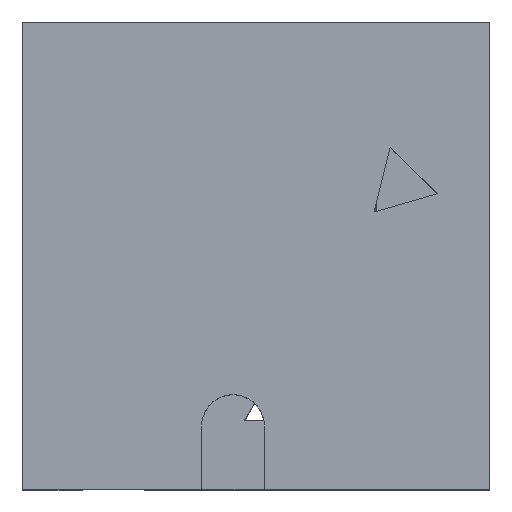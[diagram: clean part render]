
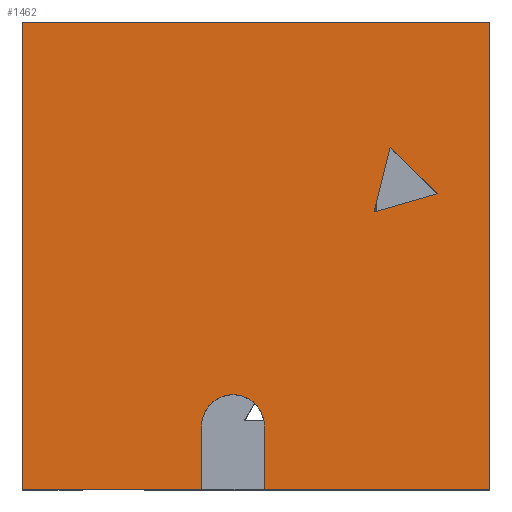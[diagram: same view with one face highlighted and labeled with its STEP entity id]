
A CAD part, top view. The second image highlights one B-rep face of the part: STEP entity #1462.
In plain terms, the highlighted planar face has unit normal (0, 0, 1).
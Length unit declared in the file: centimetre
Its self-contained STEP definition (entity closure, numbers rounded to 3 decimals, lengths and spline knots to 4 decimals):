
#4 = DIRECTION ( 'NONE',  ( 1., 0., 0. ) ) ;
#11 = DIRECTION ( 'NONE',  ( 0., 0., 1. ) ) ;
#16 = DIRECTION ( 'NONE',  ( -1., 0., 0. ) ) ;
#48 = VERTEX_POINT ( 'NONE', #796 ) ;
#51 = VECTOR ( 'NONE', #799, 100. ) ;
#52 = VECTOR ( 'NONE', #837, 100. ) ;
#53 = DIRECTION ( 'NONE',  ( 0., -1., 0. ) ) ;
#100 = CARTESIAN_POINT ( 'NONE',  ( 786.8285, 730.915, 1000. ) ) ;
#124 = ORIENTED_EDGE ( 'NONE', *, *, #1158, .T. ) ;
#143 = EDGE_CURVE ( 'NONE', #1007, #1349, #228, .T. ) ;
#171 = VERTEX_POINT ( 'NONE', #939 ) ;
#190 = CARTESIAN_POINT ( 'NONE',  ( 383.4915, 0., 1000. ) ) ;
#215 = CARTESIAN_POINT ( 'NONE',  ( 1000., 0., 1000. ) ) ;
#224 = VECTOR ( 'NONE', #811, 100. ) ;
#228 = LINE ( 'NONE', #339, #1053 ) ;
#229 = CARTESIAN_POINT ( 'NONE',  ( 0., 0., 1000. ) ) ;
#259 = CARTESIAN_POINT ( 'NONE',  ( 0., 0., 1000. ) ) ;
#268 = ORIENTED_EDGE ( 'NONE', *, *, #884, .F. ) ;
#273 = ORIENTED_EDGE ( 'NONE', *, *, #592, .F. ) ;
#282 = CARTESIAN_POINT ( 'NONE',  ( 517.9563, 135.1815, 1000. ) ) ;
#299 = EDGE_LOOP ( 'NONE', ( #1363, #871, #986 ) ) ;
#306 = CARTESIAN_POINT ( 'NONE',  ( 888.8855, 632.5705, 1000. ) ) ;
#319 = EDGE_CURVE ( 'NONE', #171, #1262, #788, .T. ) ;
#321 = DIRECTION ( 'NONE',  ( -0.241, -0.971, 0. ) ) ;
#326 = LINE ( 'NONE', #1406, #826 ) ;
#330 = CARTESIAN_POINT ( 'NONE',  ( 0., 1000., 1000. ) ) ;
#331 = DIRECTION ( 'NONE',  ( 0., 1., 0. ) ) ;
#339 = CARTESIAN_POINT ( 'NONE',  ( 383.4915, 0., 1000. ) ) ;
#354 = LINE ( 'NONE', #716, #879 ) ;
#407 = CARTESIAN_POINT ( 'NONE',  ( 0., 1000., 1000. ) ) ;
#419 = CARTESIAN_POINT ( 'NONE',  ( 383.4915, 135.1815, 1000. ) ) ;
#459 = CARTESIAN_POINT ( 'NONE',  ( 786.8285, 730.915, 1000. ) ) ;
#475 = AXIS2_PLACEMENT_3D ( 'NONE', #229, #11, #1299 ) ;
#478 = CARTESIAN_POINT ( 'NONE',  ( 0., 1000., 1000. ) ) ;
#484 = EDGE_CURVE ( 'NONE', #790, #521, #686, .T. ) ;
#489 = FACE_BOUND ( 'NONE', #299, .T. ) ;
#498 = VERTEX_POINT ( 'NONE', #580 ) ;
#503 = ORIENTED_EDGE ( 'NONE', *, *, #659, .T. ) ;
#521 = VERTEX_POINT ( 'NONE', #478 ) ;
#580 = CARTESIAN_POINT ( 'NONE',  ( 0., 0., 1000. ) ) ;
#592 = EDGE_CURVE ( 'NONE', #1503, #48, #720, .T. ) ;
#659 = EDGE_CURVE ( 'NONE', #498, #1349, #1468, .T. ) ;
#686 = LINE ( 'NONE', #330, #224 ) ;
#708 = EDGE_CURVE ( 'NONE', #1262, #1471, #1378, .T. ) ;
#716 = CARTESIAN_POINT ( 'NONE',  ( 0., 0., 1000. ) ) ;
#720 = LINE ( 'NONE', #282, #52 ) ;
#728 = EDGE_CURVE ( 'NONE', #521, #498, #1139, .T. ) ;
#738 = DIRECTION ( 'NONE',  ( 1., 0., 0. ) ) ;
#788 = LINE ( 'NONE', #1495, #51 ) ;
#790 = VERTEX_POINT ( 'NONE', #955 ) ;
#796 = CARTESIAN_POINT ( 'NONE',  ( 517.9563, 135.1815, 1000. ) ) ;
#799 = DIRECTION ( 'NONE',  ( 0.961, 0.277, 0. ) ) ;
#811 = DIRECTION ( 'NONE',  ( -1., 0., 0. ) ) ;
#826 = VECTOR ( 'NONE', #331, 100. ) ;
#828 = ORIENTED_EDGE ( 'NONE', *, *, #143, .F. ) ;
#835 = DIRECTION ( 'NONE',  ( 0., -1., 0. ) ) ;
#837 = DIRECTION ( 'NONE',  ( 0., 1., 0. ) ) ;
#871 = ORIENTED_EDGE ( 'NONE', *, *, #319, .F. ) ;
#879 = VECTOR ( 'NONE', #4, 100. ) ;
#884 = EDGE_CURVE ( 'NONE', #48, #1007, #1131, .T. ) ;
#893 = DIRECTION ( 'NONE',  ( -0.72, 0.694, 0. ) ) ;
#939 = CARTESIAN_POINT ( 'NONE',  ( 752.6882, 593.3588, 1000. ) ) ;
#949 = CARTESIAN_POINT ( 'NONE',  ( 517.9563, 0., 1000. ) ) ;
#955 = CARTESIAN_POINT ( 'NONE',  ( 1000., 1000., 1000. ) ) ;
#960 = EDGE_LOOP ( 'NONE', ( #828, #268, #273, #964, #124, #1476, #1107, #503 ) ) ;
#963 = PLANE ( 'NONE',  #475 ) ;
#964 = ORIENTED_EDGE ( 'NONE', *, *, #1520, .T. ) ;
#986 = ORIENTED_EDGE ( 'NONE', *, *, #1419, .F. ) ;
#1007 = VERTEX_POINT ( 'NONE', #419 ) ;
#1053 = VECTOR ( 'NONE', #835, 100. ) ;
#1107 = ORIENTED_EDGE ( 'NONE', *, *, #728, .T. ) ;
#1131 = CIRCLE ( 'NONE', #1517, 67.2324 ) ;
#1139 = LINE ( 'NONE', #407, #1298 ) ;
#1158 = EDGE_CURVE ( 'NONE', #1350, #790, #326, .T. ) ;
#1176 = FACE_OUTER_BOUND ( 'NONE', #960, .T. ) ;
#1206 = CARTESIAN_POINT ( 'NONE',  ( 450.7239, 135.1815, 1000. ) ) ;
#1262 = VERTEX_POINT ( 'NONE', #1294 ) ;
#1275 = VECTOR ( 'NONE', #893, 100. ) ;
#1294 = CARTESIAN_POINT ( 'NONE',  ( 888.8855, 632.5705, 1000. ) ) ;
#1298 = VECTOR ( 'NONE', #53, 100. ) ;
#1299 = DIRECTION ( 'NONE',  ( 1., 0., 0. ) ) ;
#1349 = VERTEX_POINT ( 'NONE', #190 ) ;
#1350 = VERTEX_POINT ( 'NONE', #215 ) ;
#1363 = ORIENTED_EDGE ( 'NONE', *, *, #708, .F. ) ;
#1378 = LINE ( 'NONE', #306, #1275 ) ;
#1379 = VECTOR ( 'NONE', #738, 100. ) ;
#1395 = LINE ( 'NONE', #459, #1426 ) ;
#1406 = CARTESIAN_POINT ( 'NONE',  ( 1000., 1000., 1000. ) ) ;
#1419 = EDGE_CURVE ( 'NONE', #1471, #171, #1395, .T. ) ;
#1426 = VECTOR ( 'NONE', #321, 100. ) ;
#1462 = ADVANCED_FACE ( 'NONE', ( #1176, #489 ), #963, .T. ) ;
#1468 = LINE ( 'NONE', #259, #1379 ) ;
#1471 = VERTEX_POINT ( 'NONE', #100 ) ;
#1476 = ORIENTED_EDGE ( 'NONE', *, *, #484, .T. ) ;
#1495 = CARTESIAN_POINT ( 'NONE',  ( 752.6882, 593.3588, 1000. ) ) ;
#1503 = VERTEX_POINT ( 'NONE', #949 ) ;
#1517 = AXIS2_PLACEMENT_3D ( 'NONE', #1206, #1538, #16 ) ;
#1520 = EDGE_CURVE ( 'NONE', #1503, #1350, #354, .T. ) ;
#1538 = DIRECTION ( 'NONE',  ( 0., 0., 1. ) ) ;
